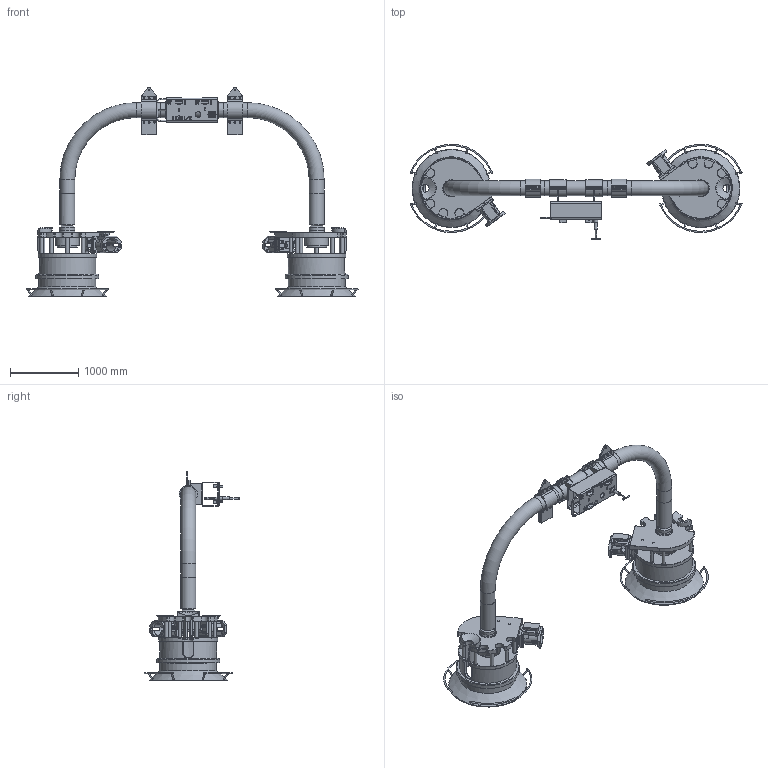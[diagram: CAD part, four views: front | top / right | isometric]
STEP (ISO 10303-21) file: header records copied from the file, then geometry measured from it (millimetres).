
FILE_DESCRIPTION(/* description */ (''),/* implementation_level */ '2;1');
FILE_NAME(/* name */ 'DU100151078_PIGLOOP.stp',/* time_stamp */ '2013-06-03T13:09:59-05:00',/* author */ (''),/* organization */ (''),/* preprocessor_version */ 'ST-DEVELOPER v11',/* originating_system */ 'SIEMENS UGS NX 6.0',/* authorisation */ '');
FILE_SCHEMA (('AUTOMOTIVE_DESIGN { 1 0 10303 214 1 1 1 1 }'));
Length unit declared in the file: inch
Products named in the file (1): zepeF175tnk9
Bounding box: 4869.24 x 1402.79 x 3061.61 mm (x, y, z)
Surface area: 24820176.3 mm2 (no closed solid volume)
Topology: 0 solids, 134 shells, 1171 faces, 4471 edges, 3217 vertices
Faces by surface type: plane 544, cylinder 400, cone 133, torus 54, bspline 40
Full cylindrical faces by diameter (mm): 12.7 x2, 13.462 x4, 16.573 x4, 19.05 x21, 20.32 x8, 22.225 x8, 25.4 x24, 25.73 x2, 33.655 x1, 34.671 x1, 34.823 x2, 34.849 x1, 42.799 x3, 43.18 x2, 44 x1, 50.8 x16, 57.15 x1, 60.325 x1, 76.2 x1, 82.55 x1, 96.012 x2, 98.552 x2, 107.696 x2, 190.5 x2, 219.075 x9, 225.425 x2, 290.525 x2, 345.948 x2, 368.3 x2, 463.55 x2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
Entity records: 51901 total; most frequent: CARTESIAN_POINT 15204, DIRECTION 7323, ORIENTED_EDGE 6202, EDGE_CURVE 4154, VERTEX_POINT 3133, AXIS2_PLACEMENT_3D 2654, LINE 2015, VECTOR 2015
